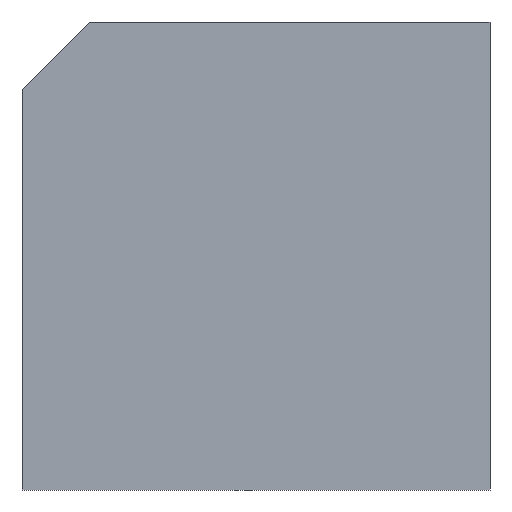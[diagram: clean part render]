
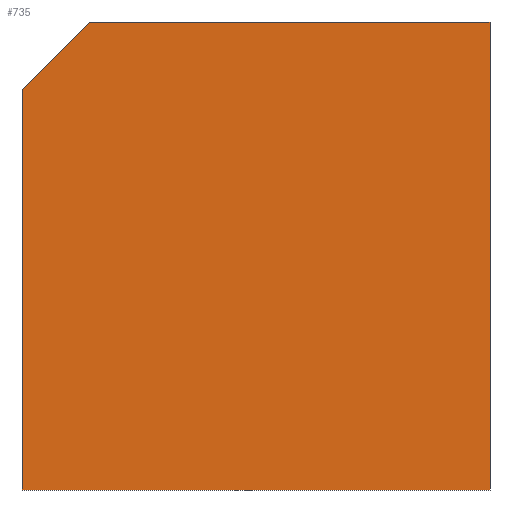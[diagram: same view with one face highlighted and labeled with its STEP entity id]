
A CAD part, left-side view. The second image highlights one B-rep face of the part: STEP entity #735.
In plain terms, the highlighted planar face has unit normal (-1, 0, 0).
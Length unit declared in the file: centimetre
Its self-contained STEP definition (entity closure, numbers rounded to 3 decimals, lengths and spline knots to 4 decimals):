
#75 = CARTESIAN_POINT ( 'NONE',  ( 0., 0., 1000. ) ) ;
#141 = CARTESIAN_POINT ( 'NONE',  ( 0., 1000., 856.3364 ) ) ;
#154 = VECTOR ( 'NONE', #1043, 100. ) ;
#161 = DIRECTION ( 'NONE',  ( 0., 0., -1. ) ) ;
#172 = CARTESIAN_POINT ( 'NONE',  ( 0., 856.3364, 1000. ) ) ;
#202 = DIRECTION ( 'NONE',  ( 1., 0., 0. ) ) ;
#204 = CARTESIAN_POINT ( 'NONE',  ( 0., 1000., 1000. ) ) ;
#225 = EDGE_LOOP ( 'NONE', ( #546, #454, #1288, #397, #1286 ) ) ;
#240 = VERTEX_POINT ( 'NONE', #141 ) ;
#275 = LINE ( 'NONE', #1202, #1018 ) ;
#305 = CARTESIAN_POINT ( 'NONE',  ( 0., 1000., 1000. ) ) ;
#332 = DIRECTION ( 'NONE',  ( 0., 0., -1. ) ) ;
#337 = CARTESIAN_POINT ( 'NONE',  ( 0., 0., 0. ) ) ;
#347 = AXIS2_PLACEMENT_3D ( 'NONE', #305, #202, #720 ) ;
#361 = VERTEX_POINT ( 'NONE', #337 ) ;
#397 = ORIENTED_EDGE ( 'NONE', *, *, #961, .T. ) ;
#446 = VERTEX_POINT ( 'NONE', #531 ) ;
#454 = ORIENTED_EDGE ( 'NONE', *, *, #1209, .T. ) ;
#515 = CARTESIAN_POINT ( 'NONE',  ( 0., 1000., 0. ) ) ;
#531 = CARTESIAN_POINT ( 'NONE',  ( 0., 856.3364, 1000. ) ) ;
#546 = ORIENTED_EDGE ( 'NONE', *, *, #1342, .F. ) ;
#601 = VECTOR ( 'NONE', #936, 100. ) ;
#643 = VECTOR ( 'NONE', #332, 100. ) ;
#720 = DIRECTION ( 'NONE',  ( 0., 0., -1. ) ) ;
#735 = ADVANCED_FACE ( 'NONE', ( #820 ), #1238, .F. ) ;
#753 = VERTEX_POINT ( 'NONE', #864 ) ;
#820 = FACE_OUTER_BOUND ( 'NONE', #225, .T. ) ;
#833 = LINE ( 'NONE', #515, #601 ) ;
#864 = CARTESIAN_POINT ( 'NONE',  ( 0., 1000., 0. ) ) ;
#904 = LINE ( 'NONE', #204, #154 ) ;
#918 = LINE ( 'NONE', #172, #1143 ) ;
#936 = DIRECTION ( 'NONE',  ( 0., -1., 0. ) ) ;
#961 = EDGE_CURVE ( 'NONE', #753, #361, #833, .T. ) ;
#964 = EDGE_CURVE ( 'NONE', #240, #753, #1264, .T. ) ;
#1018 = VECTOR ( 'NONE', #161, 100. ) ;
#1043 = DIRECTION ( 'NONE',  ( 0., -1., 0. ) ) ;
#1111 = EDGE_CURVE ( 'NONE', #1328, #361, #275, .T. ) ;
#1112 = DIRECTION ( 'NONE',  ( 0., 0.707, -0.707 ) ) ;
#1143 = VECTOR ( 'NONE', #1112, 100. ) ;
#1160 = CARTESIAN_POINT ( 'NONE',  ( 0., 1000., 1000. ) ) ;
#1202 = CARTESIAN_POINT ( 'NONE',  ( 0., 0., 1000. ) ) ;
#1209 = EDGE_CURVE ( 'NONE', #446, #240, #918, .T. ) ;
#1238 = PLANE ( 'NONE',  #347 ) ;
#1264 = LINE ( 'NONE', #1160, #643 ) ;
#1286 = ORIENTED_EDGE ( 'NONE', *, *, #1111, .F. ) ;
#1288 = ORIENTED_EDGE ( 'NONE', *, *, #964, .T. ) ;
#1328 = VERTEX_POINT ( 'NONE', #75 ) ;
#1342 = EDGE_CURVE ( 'NONE', #446, #1328, #904, .T. ) ;
